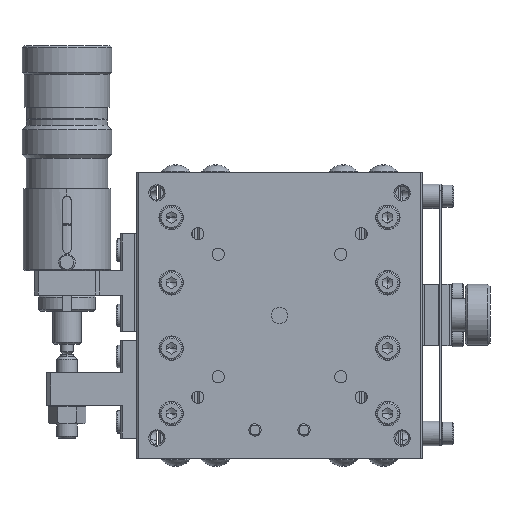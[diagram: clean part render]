
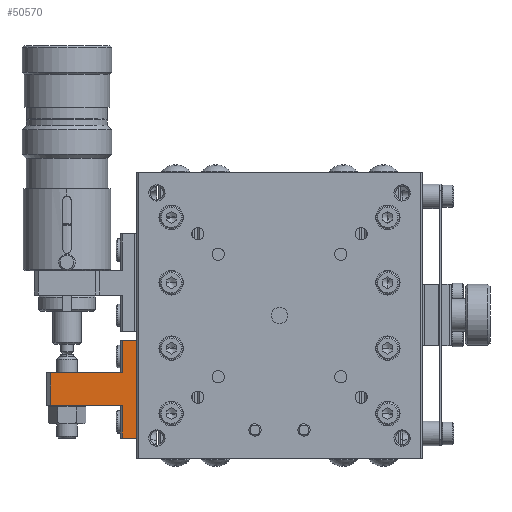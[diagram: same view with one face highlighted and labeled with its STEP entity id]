
A CAD part, top view. The second image highlights one B-rep face of the part: STEP entity #50570.
In plain terms, the highlighted planar face has unit normal (0, 0, 1).
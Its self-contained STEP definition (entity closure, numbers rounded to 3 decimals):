
#26680 = DIRECTION ( 'NONE',  ( -1., 0., 0. ) ) ;
#26681 = VECTOR ( 'NONE', #26680, 1000. ) ;
#26682 = CARTESIAN_POINT ( 'NONE',  ( -35., -6., 12.5 ) ) ;
#26683 = LINE ( 'NONE', #26682, #26681 ) ;
#26803 = DIRECTION ( 'NONE',  ( -1., 0., 0. ) ) ;
#26804 = VECTOR ( 'NONE', #26803, 1000. ) ;
#26806 = CARTESIAN_POINT ( 'NONE',  ( -35., -30., 12.5 ) ) ;
#26808 = LINE ( 'NONE', #26806, #26804 ) ;
#26832 = CARTESIAN_POINT ( 'NONE',  ( -38.5, -6., 12.5 ) ) ;
#26842 = CARTESIAN_POINT ( 'NONE',  ( -38.5, -14., 12.5 ) ) ;
#26903 = CARTESIAN_POINT ( 'NONE',  ( -38.5, -30., 12.5 ) ) ;
#26964 = DIRECTION ( 'NONE',  ( 0., -1., 0. ) ) ;
#26965 = VECTOR ( 'NONE', #26964, 1000. ) ;
#26967 = CARTESIAN_POINT ( 'NONE',  ( -38.5, -6., 12.5 ) ) ;
#26969 = LINE ( 'NONE', #26967, #26965 ) ;
#27019 = CARTESIAN_POINT ( 'NONE',  ( -38.5, -22., 12.5 ) ) ;
#27021 = DIRECTION ( 'NONE',  ( 0., -1., 0. ) ) ;
#27022 = VECTOR ( 'NONE', #27021, 1000. ) ;
#27024 = CARTESIAN_POINT ( 'NONE',  ( -38.5, -22., 12.5 ) ) ;
#27025 = LINE ( 'NONE', #27024, #27022 ) ;
#27105 = CARTESIAN_POINT ( 'NONE',  ( -56., -14., 12.5 ) ) ;
#27107 = DIRECTION ( 'NONE',  ( 0., -1., 0. ) ) ;
#27108 = VECTOR ( 'NONE', #27107, 1000. ) ;
#27109 = CARTESIAN_POINT ( 'NONE',  ( -56., -14., 12.5 ) ) ;
#27111 = LINE ( 'NONE', #27109, #27108 ) ;
#27115 = CARTESIAN_POINT ( 'NONE',  ( -56., -22., 12.5 ) ) ;
#27142 = DIRECTION ( 'NONE',  ( -1., 0., 0. ) ) ;
#27143 = VECTOR ( 'NONE', #27142, 1000. ) ;
#27144 = CARTESIAN_POINT ( 'NONE',  ( -35., -14., 12.5 ) ) ;
#27146 = LINE ( 'NONE', #27144, #27143 ) ;
#27386 = DIRECTION ( 'NONE',  ( -1., 0., 0. ) ) ;
#27387 = VECTOR ( 'NONE', #27386, 1000. ) ;
#27388 = CARTESIAN_POINT ( 'NONE',  ( -35., -22., 12.5 ) ) ;
#27392 = DIRECTION ( 'NONE',  ( 0., 1., 0. ) ) ;
#27395 = DIRECTION ( 'NONE',  ( 0., 0., 1. ) ) ;
#27396 = CARTESIAN_POINT ( 'NONE',  ( -35., -14., 12.5 ) ) ;
#27398 = LINE ( 'NONE', #27388, #27387 ) ;
#27399 = AXIS2_PLACEMENT_3D ( 'NONE', #27396, #27395, #27392 ) ;
#27401 = FACE_OUTER_BOUND ( 'NONE', #50571, .T. ) ;
#27408 = PLANE ( 'NONE',  #27399 ) ;
#42183 = VERTEX_POINT ( 'NONE', #56076 ) ;
#42243 = VERTEX_POINT ( 'NONE', #56183 ) ;
#42245 = EDGE_CURVE ( 'NONE', #42243, #42183, #56182, .T. ) ;
#50379 = EDGE_CURVE ( 'NONE', #42243, #50407, #26683, .T. ) ;
#50407 = VERTEX_POINT ( 'NONE', #26832 ) ;
#50416 = EDGE_CURVE ( 'NONE', #42183, #50423, #26808, .T. ) ;
#50423 = VERTEX_POINT ( 'NONE', #26903 ) ;
#50439 = VERTEX_POINT ( 'NONE', #26842 ) ;
#50443 = EDGE_CURVE ( 'NONE', #50407, #50439, #26969, .T. ) ;
#50461 = EDGE_CURVE ( 'NONE', #50462, #50423, #27025, .T. ) ;
#50462 = VERTEX_POINT ( 'NONE', #27019 ) ;
#50493 = ORIENTED_EDGE ( 'NONE', *, *, #50416, .F. ) ;
#50494 = ORIENTED_EDGE ( 'NONE', *, *, #42245, .F. ) ;
#50495 = ORIENTED_EDGE ( 'NONE', *, *, #50379, .T. ) ;
#50496 = ORIENTED_EDGE ( 'NONE', *, *, #50443, .T. ) ;
#50497 = ORIENTED_EDGE ( 'NONE', *, *, #50498, .T. ) ;
#50498 = EDGE_CURVE ( 'NONE', #50439, #50510, #27146, .T. ) ;
#50499 = ORIENTED_EDGE ( 'NONE', *, *, #50509, .T. ) ;
#50507 = VERTEX_POINT ( 'NONE', #27115 ) ;
#50509 = EDGE_CURVE ( 'NONE', #50510, #50507, #27111, .T. ) ;
#50510 = VERTEX_POINT ( 'NONE', #27105 ) ;
#50570 = ADVANCED_FACE ( 'NONE', ( #27401 ), #27408, .T. ) ;
#50571 = EDGE_LOOP ( 'NONE', ( #50572, #50574, #50493, #50494, #50495, #50496, #50497, #50499 ) ) ;
#50572 = ORIENTED_EDGE ( 'NONE', *, *, #50573, .F. ) ;
#50573 = EDGE_CURVE ( 'NONE', #50462, #50507, #27398, .T. ) ;
#50574 = ORIENTED_EDGE ( 'NONE', *, *, #50461, .T. ) ;
#56076 = CARTESIAN_POINT ( 'NONE',  ( -35., -30., 12.5 ) ) ;
#56179 = DIRECTION ( 'NONE',  ( 0., -1., 0. ) ) ;
#56180 = VECTOR ( 'NONE', #56179, 1000. ) ;
#56181 = CARTESIAN_POINT ( 'NONE',  ( -35., -14., 12.5 ) ) ;
#56182 = LINE ( 'NONE', #56181, #56180 ) ;
#56183 = CARTESIAN_POINT ( 'NONE',  ( -35., -6., 12.5 ) ) ;
